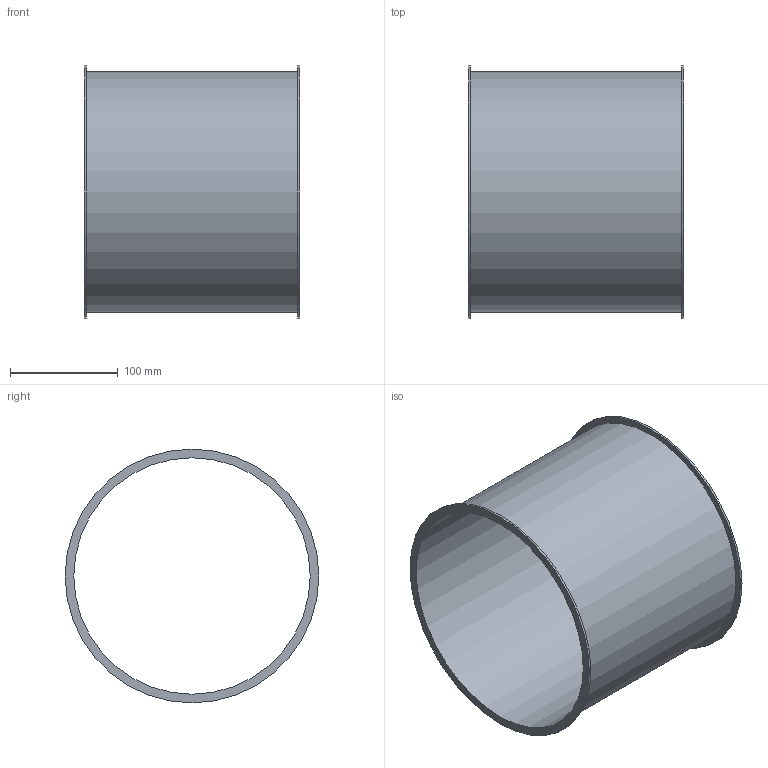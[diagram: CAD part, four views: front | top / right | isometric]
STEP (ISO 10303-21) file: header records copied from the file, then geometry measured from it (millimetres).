
FILE_DESCRIPTION((''),'2;1');
FILE_NAME('U:\Wolfgang\Marcel-3D\fertig\Kapitel 1\2221004.stp','2010-05-31T11:31:11',('TK2'),(''),'Autodesk Inventor 2010','Autodesk Inventor 2010','');
FILE_SCHEMA(('AUTOMOTIVE_DESIGN { 1 0 10303 214 1 1 1 1 }'));
Length unit declared in the file: millimetre
Products named in the file (1): 2221004
Bounding box: 200 x 235 x 235 mm (x, y, z)
Volume: 294983 mm3; surface area: 297910.9 mm2
Topology: 1 solids, 1 shells, 8 faces, 12 edges, 8 vertices
Faces by surface type: cylinder 4, plane 4
Full cylindrical faces by diameter (mm): 219 x1, 223 x1, 235 x2
Entity records: 194 total; most frequent: DIRECTION 34, CARTESIAN_POINT 25, AXIS2_PLACEMENT_3D 17, ORIENTED_EDGE 16, EDGE_LOOP 16, VERTEX_POINT 8, CIRCLE 8, EDGE_CURVE 8
